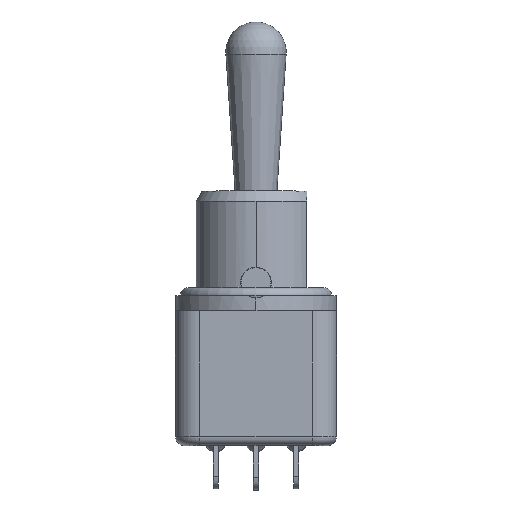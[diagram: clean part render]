
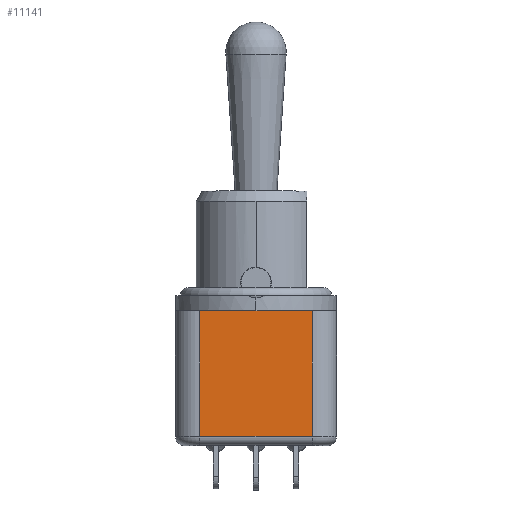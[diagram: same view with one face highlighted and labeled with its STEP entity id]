
A CAD part, top view. The second image highlights one B-rep face of the part: STEP entity #11141.
In plain terms, the highlighted planar face has unit normal (0, 0, 1).
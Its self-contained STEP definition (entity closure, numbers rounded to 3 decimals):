
#594=DIRECTION('',(-1.,0.,0.));
#595=VECTOR('',#594,5.6);
#596=CARTESIAN_POINT('',(0.,6.2,8.169));
#597=LINE('',#596,#595);
#620=DIRECTION('',(0.,1.,0.));
#621=VECTOR('',#620,12.5);
#622=CARTESIAN_POINT('',(5.6,-6.3,8.169));
#623=LINE('',#622,#621);
#624=DIRECTION('',(-1.,0.,0.));
#625=VECTOR('',#624,11.2);
#626=CARTESIAN_POINT('',(5.6,-6.3,8.169));
#627=LINE('',#626,#625);
#628=DIRECTION('',(0.,1.,0.));
#629=VECTOR('',#628,12.5);
#630=CARTESIAN_POINT('',(-5.6,-6.3,8.169));
#631=LINE('',#630,#629);
#641=DIRECTION('',(-1.,0.,0.));
#642=VECTOR('',#641,5.6);
#643=CARTESIAN_POINT('',(5.6,6.2,8.169));
#644=LINE('',#643,#642);
#10089=CARTESIAN_POINT('',(5.6,6.2,8.169));
#10091=VERTEX_POINT('',#10089);
#10094=CARTESIAN_POINT('',(-5.6,6.2,8.169));
#10096=VERTEX_POINT('',#10094);
#10109=CARTESIAN_POINT('',(-5.6,-6.3,8.169));
#10111=VERTEX_POINT('',#10109);
#10135=CARTESIAN_POINT('',(5.6,-6.3,8.169));
#10136=VERTEX_POINT('',#10135);
#10266=CARTESIAN_POINT('',(0.,6.2,8.169));
#10268=VERTEX_POINT('',#10266);
#11125=CARTESIAN_POINT('',(8.,6.2,8.169));
#11126=DIRECTION('',(0.,0.,1.));
#11127=DIRECTION('',(-1.,0.,0.));
#11128=AXIS2_PLACEMENT_3D('',#11125,#11126,#11127);
#11129=PLANE('',#11128);
#11131=ORIENTED_EDGE('',*,*,#11130,.F.);
#11133=ORIENTED_EDGE('',*,*,#11132,.F.);
#11135=ORIENTED_EDGE('',*,*,#11134,.T.);
#11137=ORIENTED_EDGE('',*,*,#11136,.T.);
#11138=ORIENTED_EDGE('',*,*,#11110,.F.);
#11139=EDGE_LOOP('',(#11131,#11133,#11135,#11137,#11138));
#11140=FACE_OUTER_BOUND('',#11139,.F.);
#11110=EDGE_CURVE('',#10268,#10096,#597,.T.);
#11130=EDGE_CURVE('',#10091,#10268,#644,.T.);
#11132=EDGE_CURVE('',#10136,#10091,#623,.T.);
#11134=EDGE_CURVE('',#10136,#10111,#627,.T.);
#11136=EDGE_CURVE('',#10111,#10096,#631,.T.);
#11141=ADVANCED_FACE('',(#11140),#11129,.T.);
